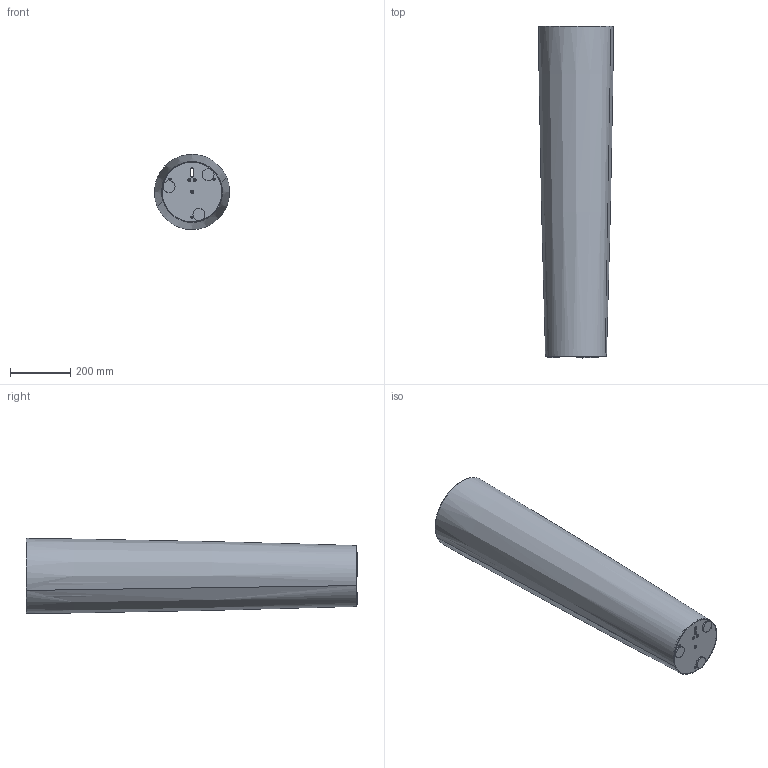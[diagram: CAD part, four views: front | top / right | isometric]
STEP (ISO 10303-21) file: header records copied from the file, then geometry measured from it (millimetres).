
FILE_DESCRIPTION (( 'STEP AP214' ), '1' );
FILE_NAME ('182_MEDIA_F_PL_3D.STEP', '2021-05-05T10:06:45', ( '' ), ( '' ), 'SwSTEP 2.0', 'SolidWorks 2021', '' );
FILE_SCHEMA (( 'AUTOMOTIVE_DESIGN' ));
Length unit declared in the file: millimetre
Products named in the file (1): 182_MEDIA_F_PL_3D
Bounding box: 249.56 x 1105 x 250.04 mm (x, y, z)
Volume: 1418686.7 mm3; surface area: 1677044.4 mm2
Topology: 8 solids, 8 shells, 410 faces, 1038 edges, 664 vertices
Faces by surface type: plane 193, cylinder 146, cone 34, bspline 16, torus 16, sphere 5
Entity records: 21083 total; most frequent: CARTESIAN_POINT 6422, DIRECTION 2136, ORIENTED_EDGE 2060, EDGE_CURVE 1030, AXIS2_PLACEMENT_3D 782, VERTEX_POINT 660, VECTOR 572, LINE 572
